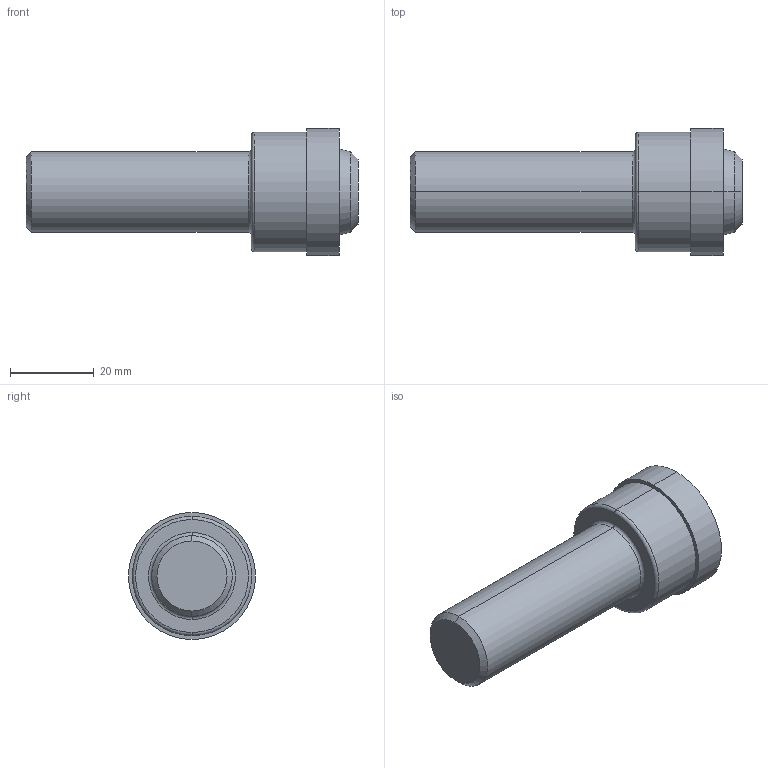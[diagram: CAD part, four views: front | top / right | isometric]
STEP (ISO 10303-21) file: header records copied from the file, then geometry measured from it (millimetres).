
FILE_DESCRIPTION (( 'STEP AP214' ), '1' );
FILE_NAME ('SAEJ1926-08X.STEP', '2023-11-07T17:29:46', ( '' ), ( '' ), 'SwSTEP 2.0', 'SolidWorks 2022', '' );
FILE_SCHEMA (( 'AUTOMOTIVE_DESIGN' ));
Length unit declared in the file: inch
Products named in the file (1): SAEJ1926-08X
Bounding box: 79.5 x 30.43 x 30.43 mm (x, y, z)
Volume: 31164.9 mm3; surface area: 6731.9 mm2
Topology: 1 solids, 1 shells, 23 faces, 44 edges, 26 vertices
Faces by surface type: cone 6, cylinder 6, torus 6, plane 5
Entity records: 630 total; most frequent: DIRECTION 124, CARTESIAN_POINT 94, ORIENTED_EDGE 88, AXIS2_PLACEMENT_3D 56, EDGE_CURVE 44, CIRCLE 32, EDGE_LOOP 26, VERTEX_POINT 26
